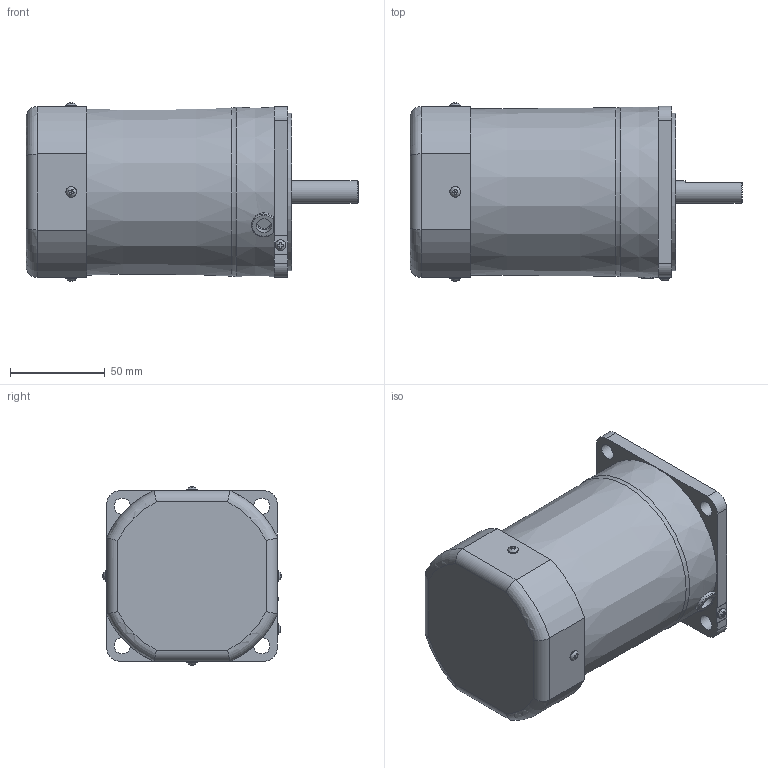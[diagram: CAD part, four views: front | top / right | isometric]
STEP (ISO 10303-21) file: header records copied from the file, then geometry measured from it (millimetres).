
FILE_DESCRIPTION(/* description */ (''),/* implementation_level */ '2;1');
FILE_NAME(/* name */ 'E:\도면작업\2016\0704) 미주향 SG 도면\3D MOTOR\SG9I90D_.stp',/* time_stamp */ '2016-07-22T13:52:17+09:00',/* author */ ('jy-jung'),/* organization */ (''),/* preprocessor_version */ 'ST-DEVELOPER v15.6',/* originating_system */ 'Autodesk Inventor 2015',/* authorisation */ '');
FILE_SCHEMA (('AUTOMOTIVE_DESIGN { 1 0 10303 214 3 1 1 }'));
Length unit declared in the file: millimetre
Products named in the file (1): 부품2
Bounding box: 174.8 x 93.89 x 93.89 mm (x, y, z)
Volume: 884847.3 mm3; surface area: 62039.6 mm2
Topology: 1 solids, 6 shells, 194 faces, 498 edges, 329 vertices
Faces by surface type: plane 122, cylinder 46, torus 14, cone 7, bspline 5
Full cylindrical faces by diameter (mm): 3 x4, 3.5 x4, 5.6 x5, 8 x1, 8.5 x4, 10 x1, 12 x1, 40 x1, 83 x1
Entity records: 6326 total; most frequent: CARTESIAN_POINT 1622, ORIENTED_EDGE 900, DIRECTION 868, EDGE_CURVE 450, VERTEX_POINT 319, AXIS2_PLACEMENT_3D 313, EDGE_LOOP 263, LINE 242
